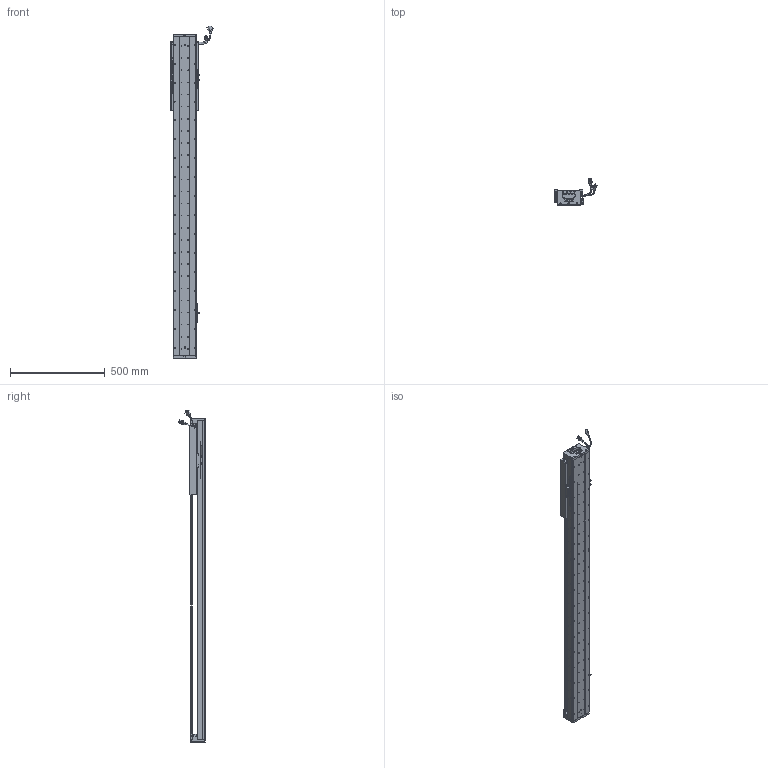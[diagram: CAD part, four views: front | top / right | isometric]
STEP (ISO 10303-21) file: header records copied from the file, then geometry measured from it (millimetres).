
FILE_DESCRIPTION (( 'STEP AP203' ), '1' );
FILE_NAME ('Z5-RY120D-1-L500-B-K.SLDASM_1250.step', '2021-05-17T06:22:41', ( '盈信电脑' ), ( '东莞市道滘镇水果街19号' ), 'SwSTEP 2.0', 'SolidWorks 2016', '' );
FILE_SCHEMA (( 'CONFIG_CONTROL_DESIGN' ));
Length unit declared in the file: millimetre
Products named in the file (37): COVER-Part-1; 672嫖萇羲壽假蚾釱; 080黍杅芛假蚾釱21遴; Z-RY120D詩湍奻揤裔; LABEL-Part-1; Z5-RY120D-1-L500-B-K.SLDASM_1250; SCREW-M1.6; SCREW-M1.6-1; PSLH080_PSLF2; LABEL; SCREW-M1.6-3; 覜茼ん672; SCALE-Part-1; SCALE; 120-Z-臏賑輸盄裔(21遴); Z-RY120D詩湍狟揤裔; HARNESS-Part-1; SEAL; HARNESS; SCREW-M1.7-1; Z5-RY120-500-倰第菁釱_1250; SCALE-Part-2; RY100FB-遵嫖萇覜茼え; HARNESS-Part-2; PBU_SHEET; SHIELDPLATE; SCREW-M1.7; Z-120詩湍傷裔啣; Z5-RY120-L500詩湍100mm遵_1250; Z5-RY120铝滑块（21款）; SCREW-M1.6-2; 榋妏寠巭燃_暯_M2_2; 140雄赽晤鎢ん堤盄; COVER; SEAL-Part-1; HOLDER0; 140蚥薯蝶輸
Assembly tree (43 placements, depth 4):
  Z5-RY120D-1-L500-B-K.SLDASM_1250
    Z5-RY120-500-倰第菁釱_1250
    覜茼ん672  x3
    672嫖萇羲壽假蚾釱  x2
    Z5-RY120铝滑块（21款）
    PSLH080_PSLF2
      SCALE
        SCALE-Part-1
        SCALE-Part-2
      HARNESS
        HARNESS-Part-1
        HARNESS-Part-2
      LABEL
        LABEL-Part-1
      COVER
        COVER-Part-1
      SEAL
        SEAL-Part-1
      榋妏寠巭燃_暯_M2_2
      SHIELDPLATE
      SCREW-M1.7
      SCREW-M1.7-1
      PBU_SHEET
      SCREW-M1.6
      SCREW-M1.6-1
      SCREW-M1.6-2
      SCREW-M1.6-3
      HOLDER0
    080黍杅芛假蚾釱21遴
    120-Z-臏賑輸盄裔(21遴)
    140雄赽晤鎢ん堤盄
    140蚥薯蝶輸  x2
    RY100FB-遵嫖萇覜茼え
    Z-120詩湍傷裔啣  x2
    Z-RY120D詩湍奻揤裔  x2
    Z-RY120D詩湍狟揤裔  x2
    Z5-RY120-L500詩湍100mm遵_1250
Bounding box: 222.86 x 140.94 x 1753.99 mm (x, y, z)
Volume: 4766708.3 mm3; surface area: 1573455.2 mm2
Topology: 38 solids, 38 shells, 3241 faces, 8971 edges, 5668 vertices
Faces by surface type: cylinder 1611, plane 1186, cone 322, torus 69, bspline 53
Entity records: 102964 total; most frequent: CARTESIAN_POINT 29365, ORIENTED_EDGE 14822, DIRECTION 14137, EDGE_CURVE 7411, AXIS2_PLACEMENT_3D 5222, VERTEX_POINT 4788, LINE 3693, VECTOR 3693
